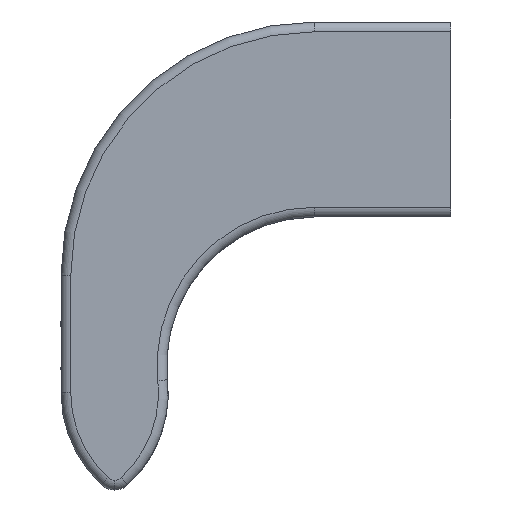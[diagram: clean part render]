
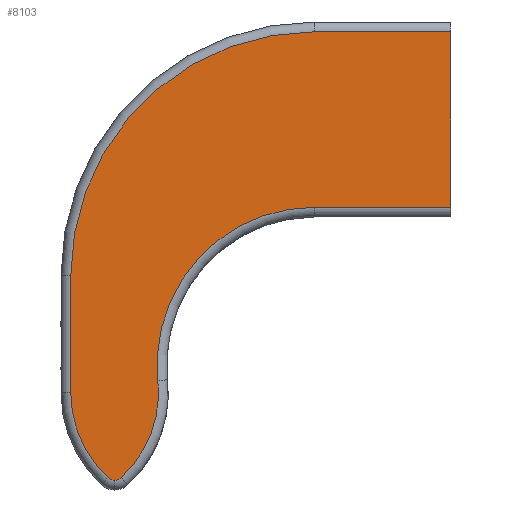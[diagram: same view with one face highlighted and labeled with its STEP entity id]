
A CAD part, left-side view. The second image highlights one B-rep face of the part: STEP entity #8103.
In plain terms, the highlighted planar face has unit normal (-1, 0, 0).
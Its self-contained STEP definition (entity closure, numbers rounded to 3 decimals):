
#26 = EDGE_CURVE ( 'NONE', #13816, #13827, #6726, .T. ) ;
#134 = EDGE_CURVE ( 'NONE', #13645, #1638, #1064, .T. ) ;
#268 = ORIENTED_EDGE ( 'NONE', *, *, #8336, .T. ) ;
#638 = DIRECTION ( 'NONE',  ( 0., 0., -1. ) ) ;
#844 = DIRECTION ( 'NONE',  ( 0., 0., 1. ) ) ;
#1064 = CIRCLE ( 'NONE', #13249, 1. ) ;
#1186 = VECTOR ( 'NONE', #10037, 1000. ) ;
#1489 = EDGE_CURVE ( 'NONE', #12253, #3852, #6629, .T. ) ;
#1638 = VERTEX_POINT ( 'NONE', #2744 ) ;
#1739 = CARTESIAN_POINT ( 'NONE',  ( -65., 39., -15.146 ) ) ;
#1774 = EDGE_CURVE ( 'NONE', #13827, #13645, #9458, .T. ) ;
#2116 = ORIENTED_EDGE ( 'NONE', *, *, #1774, .T. ) ;
#2243 = DIRECTION ( 'NONE',  ( -1., 0., 0. ) ) ;
#2735 = CARTESIAN_POINT ( 'NONE',  ( -65., 0., 19. ) ) ;
#2744 = CARTESIAN_POINT ( 'NONE',  ( -65., 33.821, -26.734 ) ) ;
#2883 = LINE ( 'NONE', #11056, #6832 ) ;
#2933 = CARTESIAN_POINT ( 'NONE',  ( -65., 39., -18. ) ) ;
#2957 = EDGE_LOOP ( 'NONE', ( #7587, #11270, #15251, #10849, #7689, #2116, #3006, #8461, #268, #8076 ) ) ;
#3006 = ORIENTED_EDGE ( 'NONE', *, *, #134, .T. ) ;
#3323 = FACE_OUTER_BOUND ( 'NONE', #2957, .T. ) ;
#3600 = DIRECTION ( 'NONE',  ( 0., 0., 1. ) ) ;
#3852 = VERTEX_POINT ( 'NONE', #14564 ) ;
#4073 = DIRECTION ( 'NONE',  ( 0., 0., -1. ) ) ;
#4180 = VERTEX_POINT ( 'NONE', #9027 ) ;
#4602 = CARTESIAN_POINT ( 'NONE',  ( -65., 27.107, -18. ) ) ;
#4871 = DIRECTION ( 'NONE',  ( 1., 0., 0. ) ) ;
#4982 = CARTESIAN_POINT ( 'NONE',  ( -65., 14., -15.146 ) ) ;
#5103 = VECTOR ( 'NONE', #4073, 1000. ) ;
#5325 = CARTESIAN_POINT ( 'NONE',  ( -65., 14., -6. ) ) ;
#5528 = AXIS2_PLACEMENT_3D ( 'NONE', #14127, #6889, #638 ) ;
#5591 = CIRCLE ( 'NONE', #14675, 25. ) ;
#5918 = EDGE_CURVE ( 'NONE', #12253, #4180, #2883, .T. ) ;
#6390 = AXIS2_PLACEMENT_3D ( 'NONE', #10522, #6864, #12897 ) ;
#6629 = LINE ( 'NONE', #13545, #5103 ) ;
#6726 = CIRCLE ( 'NONE', #12656, 11.893 ) ;
#6832 = VECTOR ( 'NONE', #7348, 1000. ) ;
#6864 = DIRECTION ( 'NONE',  ( -1., 0., 0. ) ) ;
#6889 = DIRECTION ( 'NONE',  ( -1., 0., 0. ) ) ;
#7104 = EDGE_CURVE ( 'NONE', #12557, #13816, #10971, .T. ) ;
#7222 = CARTESIAN_POINT ( 'NONE',  ( -65., 34.5, -27. ) ) ;
#7348 = DIRECTION ( 'NONE',  ( 0., 1., 0. ) ) ;
#7587 = ORIENTED_EDGE ( 'NONE', *, *, #1489, .F. ) ;
#7689 = ORIENTED_EDGE ( 'NONE', *, *, #26, .T. ) ;
#8020 = CARTESIAN_POINT ( 'NONE',  ( -65., 39., -6. ) ) ;
#8076 = ORIENTED_EDGE ( 'NONE', *, *, #13495, .T. ) ;
#8103 = ADVANCED_FACE ( 'NONE', ( #3323 ), #10457, .T. ) ;
#8170 = CARTESIAN_POINT ( 'NONE',  ( -65., 41.893, -18. ) ) ;
#8182 = DIRECTION ( 'NONE',  ( 0., -1., 0. ) ) ;
#8252 = CIRCLE ( 'NONE', #10619, 11.893 ) ;
#8336 = EDGE_CURVE ( 'NONE', #12170, #8738, #14664, .T. ) ;
#8461 = ORIENTED_EDGE ( 'NONE', *, *, #12719, .T. ) ;
#8738 = VERTEX_POINT ( 'NONE', #13968 ) ;
#8819 = CARTESIAN_POINT ( 'NONE',  ( -65., 35.179, -26.734 ) ) ;
#9027 = CARTESIAN_POINT ( 'NONE',  ( -65., 14., 19. ) ) ;
#9458 = CIRCLE ( 'NONE', #6390, 1. ) ;
#9528 = CARTESIAN_POINT ( 'NONE',  ( -65., 34.5, -26. ) ) ;
#10037 = DIRECTION ( 'NONE',  ( 0., 0., -1. ) ) ;
#10457 = PLANE ( 'NONE',  #5528 ) ;
#10522 = CARTESIAN_POINT ( 'NONE',  ( -65., 34.5, -26. ) ) ;
#10547 = DIRECTION ( 'NONE',  ( 0., 0., 1. ) ) ;
#10619 = AXIS2_PLACEMENT_3D ( 'NONE', #8170, #2243, #844 ) ;
#10849 = ORIENTED_EDGE ( 'NONE', *, *, #7104, .T. ) ;
#10971 = LINE ( 'NONE', #1739, #1186 ) ;
#11056 = CARTESIAN_POINT ( 'NONE',  ( -65., 14., 19. ) ) ;
#11080 = CARTESIAN_POINT ( 'NONE',  ( -65., 30.062, -16.789 ) ) ;
#11270 = ORIENTED_EDGE ( 'NONE', *, *, #5918, .T. ) ;
#11302 = DIRECTION ( 'NONE',  ( 0., 0., 1. ) ) ;
#11405 = DIRECTION ( 'NONE',  ( -1., 0., 0. ) ) ;
#11800 = DIRECTION ( 'NONE',  ( -1., 0., 0. ) ) ;
#11996 = AXIS2_PLACEMENT_3D ( 'NONE', #4982, #4871, #3600 ) ;
#12170 = VERTEX_POINT ( 'NONE', #11080 ) ;
#12253 = VERTEX_POINT ( 'NONE', #2735 ) ;
#12557 = VERTEX_POINT ( 'NONE', #8020 ) ;
#12599 = VECTOR ( 'NONE', #8182, 1000. ) ;
#12656 = AXIS2_PLACEMENT_3D ( 'NONE', #4602, #15335, #10547 ) ;
#12719 = EDGE_CURVE ( 'NONE', #1638, #12170, #8252, .T. ) ;
#12897 = DIRECTION ( 'NONE',  ( 0., 0., 1. ) ) ;
#13249 = AXIS2_PLACEMENT_3D ( 'NONE', #9528, #11800, #15376 ) ;
#13495 = EDGE_CURVE ( 'NONE', #8738, #3852, #14105, .T. ) ;
#13545 = CARTESIAN_POINT ( 'NONE',  ( -65., 0., 0. ) ) ;
#13645 = VERTEX_POINT ( 'NONE', #7222 ) ;
#13816 = VERTEX_POINT ( 'NONE', #2933 ) ;
#13827 = VERTEX_POINT ( 'NONE', #8819 ) ;
#13968 = CARTESIAN_POINT ( 'NONE',  ( -65., 14., 1. ) ) ;
#14105 = LINE ( 'NONE', #15407, #12599 ) ;
#14127 = CARTESIAN_POINT ( 'NONE',  ( -65., 14., -15.146 ) ) ;
#14564 = CARTESIAN_POINT ( 'NONE',  ( -65., 0., 1. ) ) ;
#14664 = CIRCLE ( 'NONE', #11996, 16.146 ) ;
#14675 = AXIS2_PLACEMENT_3D ( 'NONE', #5325, #11405, #11302 ) ;
#14824 = EDGE_CURVE ( 'NONE', #4180, #12557, #5591, .T. ) ;
#15251 = ORIENTED_EDGE ( 'NONE', *, *, #14824, .T. ) ;
#15335 = DIRECTION ( 'NONE',  ( -1., 0., 0. ) ) ;
#15376 = DIRECTION ( 'NONE',  ( 0., 0., 1. ) ) ;
#15407 = CARTESIAN_POINT ( 'NONE',  ( -65., 14., 1. ) ) ;
